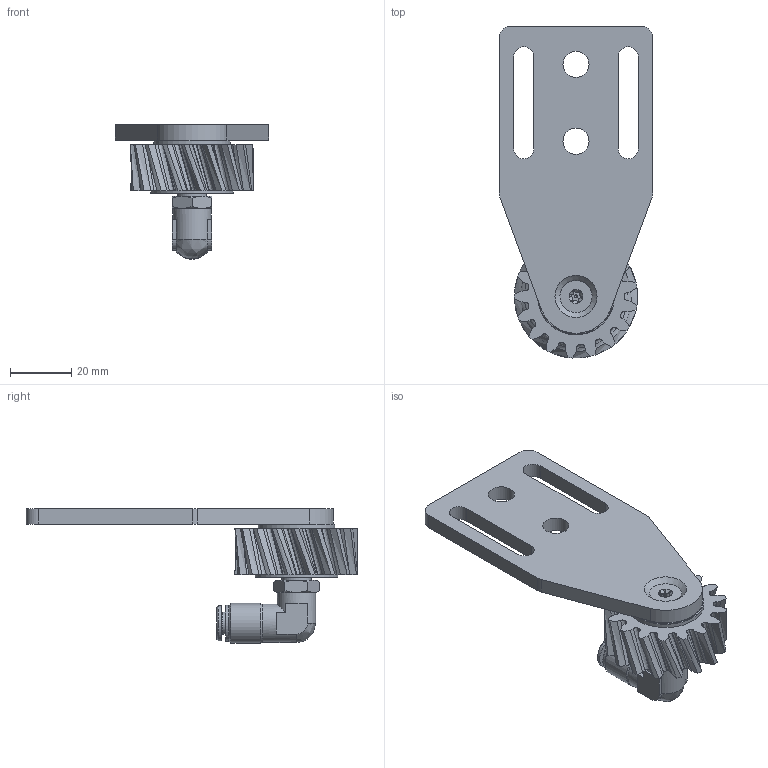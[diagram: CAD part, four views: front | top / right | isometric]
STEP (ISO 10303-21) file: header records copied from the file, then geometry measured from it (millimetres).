
FILE_DESCRIPTION (( 'STEP AP214' ), '1' );
FILE_NAME ('012_13_02_15_17SLZ.STEP', '2026-06-24T12:48:19', ( '' ), ( '' ), 'SwSTEP 2.0', 'SolidWorks 2022', '' );
FILE_SCHEMA (( 'AUTOMOTIVE_DESIGN' ));
Length unit declared in the file: millimetre
Products named in the file (12): Achsenhalter_01; H214667-HDS_1-8_M6X1Z; Senkkopfschraube_M5_ISR; OR 7.2X1.9; DR6-C_HDX_25.07.16; H202225_HDS_022_6_M6_28.09.22; 27_Scheibe-CRS-VA.SLDASM; 012_13_02_15_17SLZ; U_Scheibe_5.3_25; 012_13_02_15_17L; R11155-N2
Assembly tree (11 placements, depth 4):
  012_13_02_15_17SLZ
    Achsenhalter_01
    U_Scheibe_5.3_25
    H202225_HDS_022_6_M6_28.09.22
      R11155-N2
      DR6-C_HDX_25.07.16
      H214667-HDS_1-8_M6X1Z
        H214667-HDS_1-8_M6X1Z
        OR 7.2X1.9
    Senkkopfschraube_M5_ISR
    27_Scheibe-CRS-VA.SLDASM
    012_13_02_15_17L
Bounding box: 50 x 108.02 x 43.8 mm (x, y, z)
Volume: 36484.6 mm3; surface area: 22191.5 mm2
Topology: 8 solids, 9 shells, 658 faces, 1794 edges, 1186 vertices
Faces by surface type: bspline 291, plane 256, cylinder 80, cone 30, torus 1
Full cylindrical faces by diameter (mm): 2 x1, 4 x1, 4.6 x1, 5 x1, 5.3 x1, 6 x2, 6.2 x1, 6.3 x1, 6.6 x1, 7.2 x1, 8.5 x2, 9 x2, 9.5 x1, 9.9 x1, 10 x2, 10.1 x2, 10.3 x1, 11.5 x1, 11.7 x1, 12 x1, 12.5 x2, 13 x1, 25 x1, 27 x1
Entity records: 58807 total; most frequent: CARTESIAN_POINT 42924, ORIENTED_EDGE 3399, DIRECTION 1944, EDGE_CURVE 1704, VERTEX_POINT 1155, LINE 854, VECTOR 854, EDGE_LOOP 769
